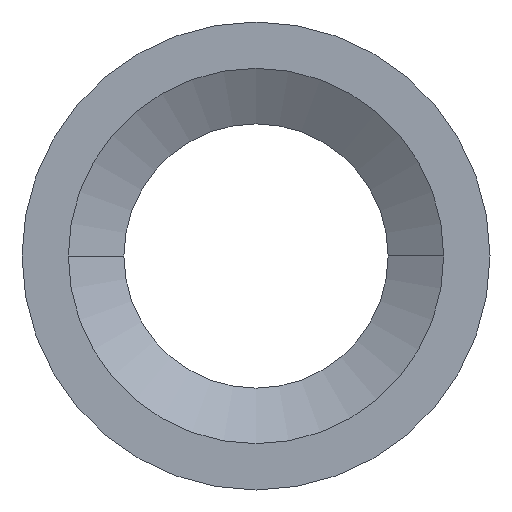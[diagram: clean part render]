
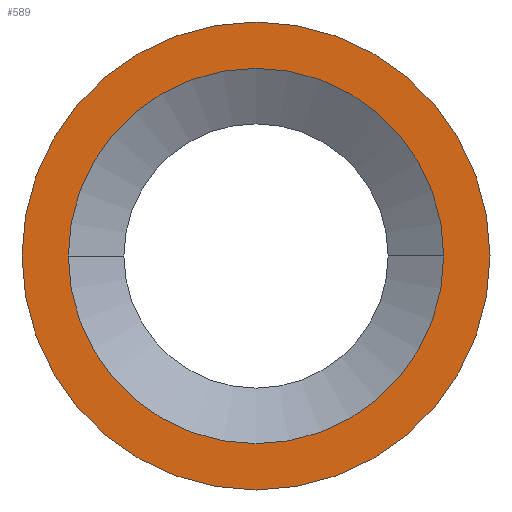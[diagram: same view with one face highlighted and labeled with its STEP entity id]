
A CAD part, left-side view. The second image highlights one B-rep face of the part: STEP entity #589.
In plain terms, the highlighted planar face has unit normal (-1, 0, 0).
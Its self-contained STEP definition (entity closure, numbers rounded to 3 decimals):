
#248=CARTESIAN_POINT('',(0.0,5.055,0.0));
#249=VERTEX_POINT('',#248);
#256=CARTESIAN_POINT('',(0.0,-5.055,0.));
#257=VERTEX_POINT('',#256);
#258=CARTESIAN_POINT('',(0.0,0.0,0.0));
#259=DIRECTION('',(1.0,0.0,0.0));
#260=DIRECTION('',(0.0,1.0,0.0));
#261=AXIS2_PLACEMENT_3D('',#258,#259,#260);
#262=CIRCLE('',#261,5.055);
#263=EDGE_CURVE('',#249,#257,#262,.T.);
#289=CARTESIAN_POINT('',(0.,4.055,0.0));
#290=VERTEX_POINT('',#289);
#299=CARTESIAN_POINT('',(0.0,-4.055,0.));
#300=VERTEX_POINT('',#299);
#301=CARTESIAN_POINT('',(0.0,0.0,0.0));
#302=DIRECTION('',(1.0,0.0,0.0));
#303=DIRECTION('',(0.0,1.0,0.0));
#304=AXIS2_PLACEMENT_3D('',#301,#302,#303);
#305=CIRCLE('',#304,4.055);
#306=EDGE_CURVE('',#300,#290,#305,.T.);
#560=CARTESIAN_POINT('',(0.0,0.0,0.0));
#561=DIRECTION('',(1.0,0.0,0.0));
#562=DIRECTION('',(0.0,1.0,0.0));
#563=AXIS2_PLACEMENT_3D('',#560,#561,#562);
#564=CIRCLE('',#563,4.055);
#565=EDGE_CURVE('',#290,#300,#564,.T.);
#570=CARTESIAN_POINT('',(0.,4.555,0.0));
#571=DIRECTION('',(-1.0,0.0,0.0));
#572=DIRECTION('',(0.0,0.0,1.0));
#573=AXIS2_PLACEMENT_3D('',#570,#571,#572);
#574=PLANE('',#573);
#575=ORIENTED_EDGE('',*,*,#263,.F.);
#576=CARTESIAN_POINT('',(0.0,0.0,0.0));
#577=DIRECTION('',(1.0,0.0,0.0));
#578=DIRECTION('',(0.0,1.0,0.0));
#579=AXIS2_PLACEMENT_3D('',#576,#577,#578);
#580=CIRCLE('',#579,5.055);
#581=EDGE_CURVE('',#257,#249,#580,.T.);
#582=ORIENTED_EDGE('',*,*,#581,.F.);
#583=EDGE_LOOP('',(#575,#582));
#584=FACE_OUTER_BOUND('',#583,.T.);
#585=ORIENTED_EDGE('',*,*,#565,.T.);
#586=ORIENTED_EDGE('',*,*,#306,.T.);
#587=EDGE_LOOP('',(#585,#586));
#588=FACE_BOUND('',#587,.T.);
#589=ADVANCED_FACE('',(#584,#588),#574,.T.);
